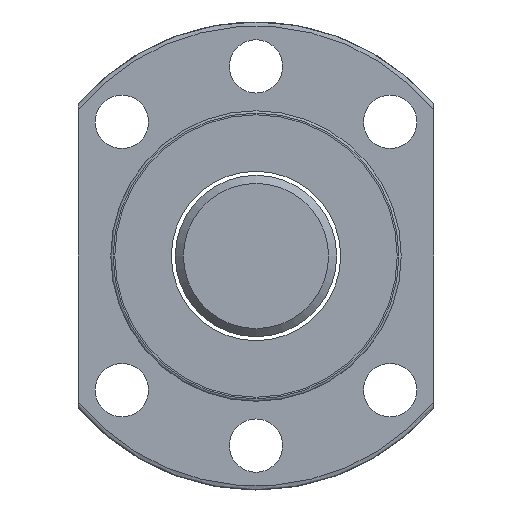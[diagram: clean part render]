
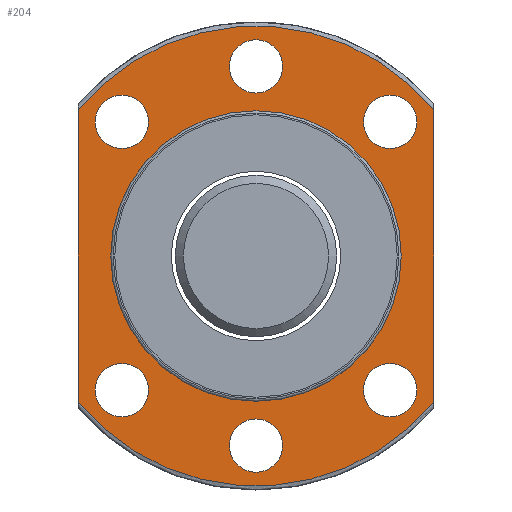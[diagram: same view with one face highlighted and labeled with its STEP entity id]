
A CAD part, left-side view. The second image highlights one B-rep face of the part: STEP entity #204.
In plain terms, the highlighted planar face has unit normal (-1, 0, 0).
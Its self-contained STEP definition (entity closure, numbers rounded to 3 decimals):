
#105=PLANE('',#608);
#117=FACE_BOUND('',#264,.T.);
#118=FACE_BOUND('',#265,.T.);
#119=FACE_BOUND('',#266,.T.);
#120=FACE_BOUND('',#267,.T.);
#121=FACE_BOUND('',#268,.T.);
#122=FACE_BOUND('',#269,.T.);
#123=FACE_BOUND('',#270,.T.);
#187=LINE('',#936,#195);
#188=LINE('',#937,#196);
#195=VECTOR('',#701,1.);
#196=VECTOR('',#702,1.);
#204=ADVANCED_FACE('',(#117,#118,#119,#120,#121,#122,#123,#244),#105,.F.);
#244=FACE_OUTER_BOUND('',#271,.T.);
#264=EDGE_LOOP('',(#384));
#265=EDGE_LOOP('',(#385));
#266=EDGE_LOOP('',(#386));
#267=EDGE_LOOP('',(#387));
#268=EDGE_LOOP('',(#388));
#269=EDGE_LOOP('',(#389));
#270=EDGE_LOOP('',(#390));
#271=EDGE_LOOP('',(#391,#392,#393,#394));
#334=CIRCLE('',#594,28.5);
#337=CIRCLE('',#600,3.3);
#338=CIRCLE('',#601,3.3);
#339=CIRCLE('',#602,3.3);
#340=CIRCLE('',#603,3.3);
#341=CIRCLE('',#604,3.3);
#342=CIRCLE('',#605,3.3);
#343=CIRCLE('',#606,18.);
#344=CIRCLE('',#607,28.5);
#384=ORIENTED_EDGE('',*,*,#539,.T.);
#385=ORIENTED_EDGE('',*,*,#540,.T.);
#386=ORIENTED_EDGE('',*,*,#541,.T.);
#387=ORIENTED_EDGE('',*,*,#542,.T.);
#388=ORIENTED_EDGE('',*,*,#543,.T.);
#389=ORIENTED_EDGE('',*,*,#544,.T.);
#390=ORIENTED_EDGE('',*,*,#545,.T.);
#391=ORIENTED_EDGE('',*,*,#546,.F.);
#392=ORIENTED_EDGE('',*,*,#547,.T.);
#393=ORIENTED_EDGE('',*,*,#532,.F.);
#394=ORIENTED_EDGE('',*,*,#548,.F.);
#483=VERTEX_POINT('',#846);
#485=VERTEX_POINT('',#868);
#490=VERTEX_POINT('',#920);
#491=VERTEX_POINT('',#922);
#492=VERTEX_POINT('',#924);
#493=VERTEX_POINT('',#926);
#494=VERTEX_POINT('',#928);
#495=VERTEX_POINT('',#930);
#496=VERTEX_POINT('',#932);
#497=VERTEX_POINT('',#934);
#498=VERTEX_POINT('',#935);
#532=EDGE_CURVE('',#485,#483,#334,.T.);
#539=EDGE_CURVE('',#490,#490,#337,.T.);
#540=EDGE_CURVE('',#491,#491,#338,.T.);
#541=EDGE_CURVE('',#492,#492,#339,.T.);
#542=EDGE_CURVE('',#493,#493,#340,.T.);
#543=EDGE_CURVE('',#494,#494,#341,.T.);
#544=EDGE_CURVE('',#495,#495,#342,.T.);
#545=EDGE_CURVE('',#496,#496,#343,.T.);
#546=EDGE_CURVE('',#497,#498,#344,.T.);
#547=EDGE_CURVE('',#497,#483,#187,.T.);
#548=EDGE_CURVE('',#498,#485,#188,.T.);
#594=AXIS2_PLACEMENT_3D('',#869,#671,#672);
#600=AXIS2_PLACEMENT_3D('',#919,#685,#686);
#601=AXIS2_PLACEMENT_3D('',#921,#687,#688);
#602=AXIS2_PLACEMENT_3D('',#923,#689,#690);
#603=AXIS2_PLACEMENT_3D('',#925,#691,#692);
#604=AXIS2_PLACEMENT_3D('',#927,#693,#694);
#605=AXIS2_PLACEMENT_3D('',#929,#695,#696);
#606=AXIS2_PLACEMENT_3D('',#931,#697,#698);
#607=AXIS2_PLACEMENT_3D('',#933,#699,#700);
#608=AXIS2_PLACEMENT_3D('',#938,#703,#704);
#671=DIRECTION('',(1.,0.,0.));
#672=DIRECTION('',(0.,0.,-1.));
#685=DIRECTION('',(1.,0.,0.));
#686=DIRECTION('',(0.,0.,-1.));
#687=DIRECTION('',(1.,0.,0.));
#688=DIRECTION('',(0.,0.,-1.));
#689=DIRECTION('',(1.,0.,0.));
#690=DIRECTION('',(0.,0.,-1.));
#691=DIRECTION('',(1.,0.,0.));
#692=DIRECTION('',(0.,0.,-1.));
#693=DIRECTION('',(1.,0.,0.));
#694=DIRECTION('',(0.,0.,-1.));
#695=DIRECTION('',(1.,0.,0.));
#696=DIRECTION('',(0.,0.,-1.));
#697=DIRECTION('',(1.,0.,0.));
#698=DIRECTION('',(0.,0.,-1.));
#699=DIRECTION('',(1.,0.,0.));
#700=DIRECTION('',(0.,0.,-1.));
#701=DIRECTION('',(0.,0.,-1.));
#702=DIRECTION('',(0.,0.,-1.));
#703=DIRECTION('',(1.,0.,0.));
#704=DIRECTION('',(0.,0.,-1.));
#846=CARTESIAN_POINT('',(-24.089,22.,-18.118));
#868=CARTESIAN_POINT('',(-24.089,-22.,-18.118));
#869=CARTESIAN_POINT('',(-24.089,0.,0.));
#919=CARTESIAN_POINT('',(-24.089,0.,-23.5));
#920=CARTESIAN_POINT('',(-24.089,0.,-26.8));
#921=CARTESIAN_POINT('',(-24.089,16.617,-16.617));
#922=CARTESIAN_POINT('',(-24.089,16.617,-19.917));
#923=CARTESIAN_POINT('',(-24.089,-16.617,-16.617));
#924=CARTESIAN_POINT('',(-24.089,-16.617,-19.917));
#925=CARTESIAN_POINT('',(-24.089,0.,23.5));
#926=CARTESIAN_POINT('',(-24.089,0.,20.2));
#927=CARTESIAN_POINT('',(-24.089,-16.617,16.617));
#928=CARTESIAN_POINT('',(-24.089,-16.617,13.317));
#929=CARTESIAN_POINT('',(-24.089,16.617,16.617));
#930=CARTESIAN_POINT('',(-24.089,16.617,13.317));
#931=CARTESIAN_POINT('',(-24.089,0.,0.));
#932=CARTESIAN_POINT('',(-24.089,0.,-18.));
#933=CARTESIAN_POINT('',(-24.089,0.,0.));
#934=CARTESIAN_POINT('',(-24.089,22.,18.118));
#935=CARTESIAN_POINT('',(-24.089,-22.,18.118));
#936=CARTESIAN_POINT('',(-24.089,22.,0.));
#937=CARTESIAN_POINT('',(-24.089,-22.,0.));
#938=CARTESIAN_POINT('',(-24.089,23.25,0.));
